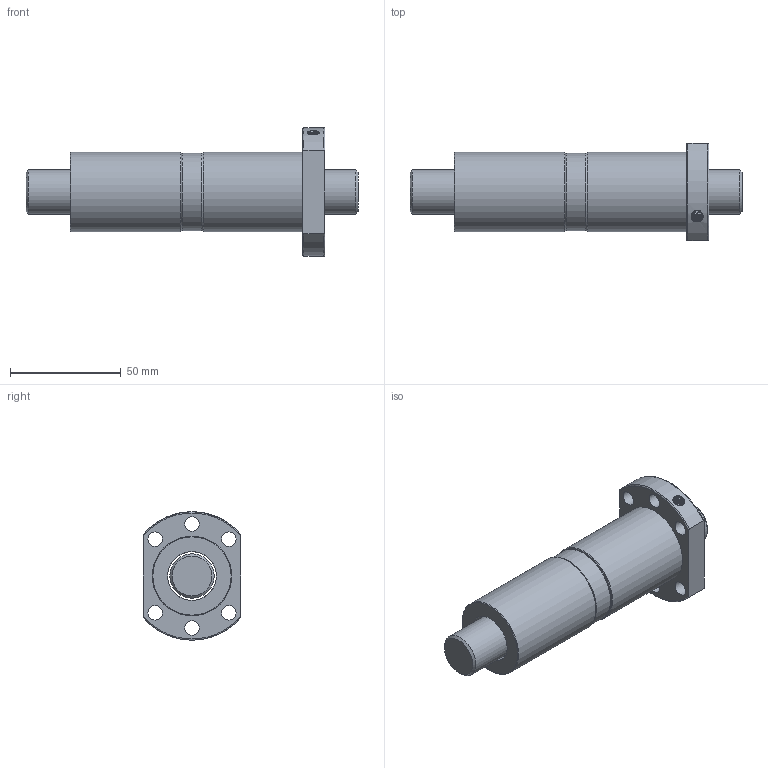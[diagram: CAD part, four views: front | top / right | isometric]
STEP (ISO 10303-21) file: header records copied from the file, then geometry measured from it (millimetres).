
FILE_DESCRIPTION(/* description */ ('Unknown','CAx-IF Rec.Pracs.---Representation and Presentation of Product Manufacturing Information (PMI)---4.0---2014-10-13','CAx-IF Rec.Pracs.---3D Tessellated Geometry---0.4---2014-09-14','2;1'),/* implementation_level */ '2;1');
FILE_NAME(/* name */ 'DFS02010',/* time_stamp */ '2020-12-07T10:23:28+08:00',/* author */ ('Unknown'),/* organization */ ('Unknown'),/* preprocessor_version */ 'ST-DEVELOPER v16.7',/* originating_system */ 'Solid Edge',/* authorisation */ 'Unknown');
FILE_SCHEMA (('AP242_MANAGED_MODEL_BASED_3D_ENGINEERING_MIM_LF { 1 0 10303 442 1 1 4 }'));
Length unit declared in the file: millimetre
Products named in the file (1): DFS02010
Bounding box: 150 x 44 x 58 mm (x, y, z)
Volume: 127065 mm3; surface area: 36799.7 mm2
Topology: 2 solids, 2 shells, 43 faces, 106 edges, 69 vertices
Faces by surface type: cylinder 18, plane 11, torus 9, cone 3, bspline 2
Full cylindrical faces by diameter (mm): 4 x1, 4.917 x1, 6.6 x6, 20 x1, 22 x1, 35 x1, 35.5 x1, 36 x2
Entity records: 3290 total; most frequent: CARTESIAN_POINT 2329, DIRECTION 186, ORIENTED_EDGE 148, AXIS2_PLACEMENT_3D 89, EDGE_LOOP 83, FACE_BOUND 83, EDGE_CURVE 74, VERTEX_POINT 59
